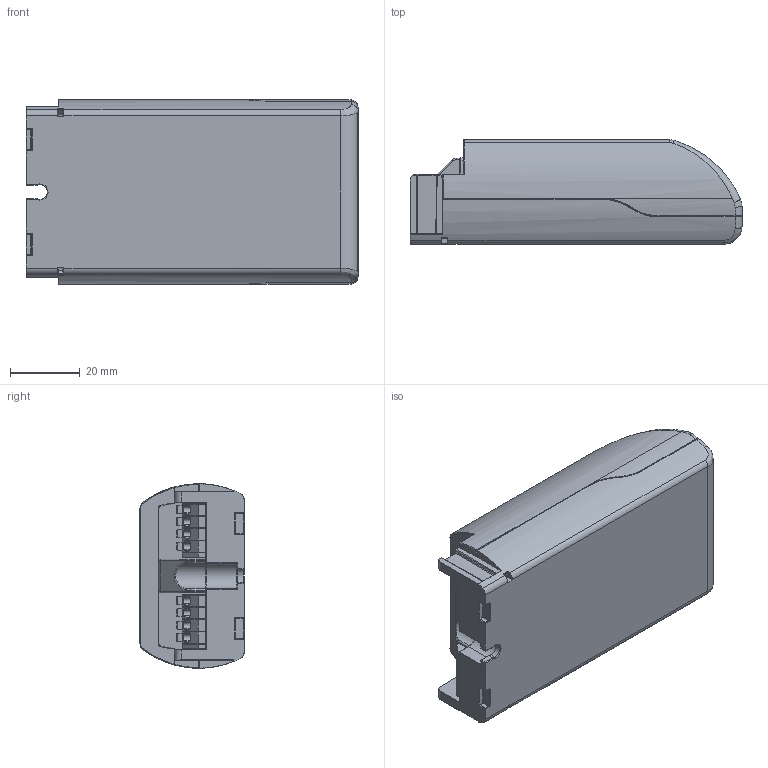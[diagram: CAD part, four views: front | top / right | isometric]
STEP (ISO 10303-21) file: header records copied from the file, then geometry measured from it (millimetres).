
FILE_DESCRIPTION (( 'STEP AP214' ), '1' );
FILE_NAME ('OTi_DALI_15_220-240_1A0_LT2.STEP', '2017-10-26T12:07:20', ( '' ), ( '' ), 'SwSTEP 2.0', 'SolidWorks 2015', '' );
FILE_SCHEMA (( 'AUTOMOTIVE_DESIGN' ));
Length unit declared in the file: millimetre
Products named in the file (1): OTi_DALI_15_220-240_1A0_LT2
Bounding box: 95 x 29.8 x 52.8 mm (x, y, z)
Volume: 121820.5 mm3; surface area: 22164.6 mm2
Topology: 1 solids, 31 shells, 1234 faces, 3217 edges, 2033 vertices
Faces by surface type: plane 608, cylinder 364, bspline 181, torus 58, sphere 18, cone 5
Entity records: 56578 total; most frequent: CARTESIAN_POINT 15970, ORIENTED_EDGE 6412, DIRECTION 5063, EDGE_CURVE 3206, VERTEX_POINT 2036, VECTOR 1979, LINE 1979, AXIS2_PLACEMENT_3D 1542
